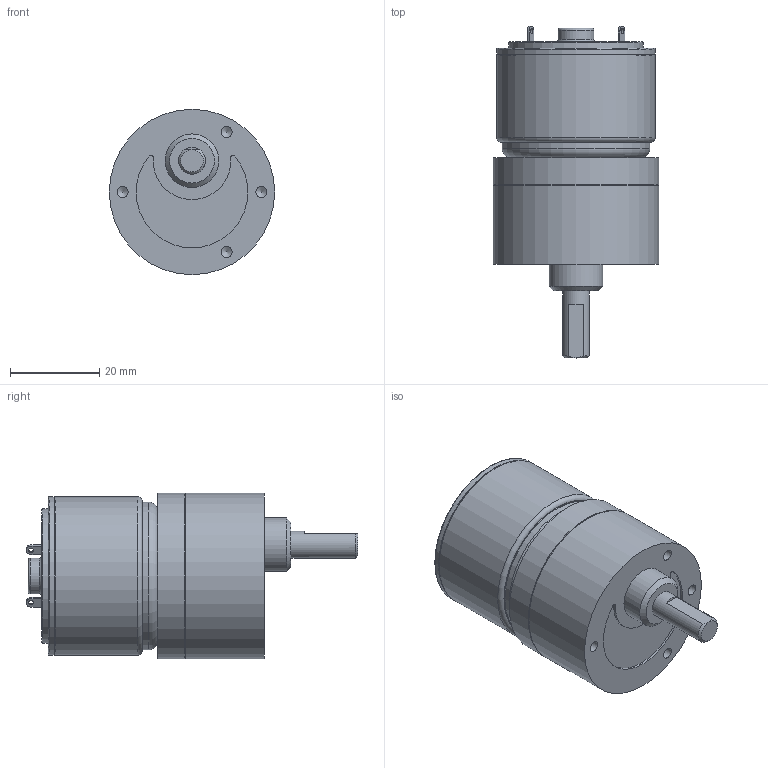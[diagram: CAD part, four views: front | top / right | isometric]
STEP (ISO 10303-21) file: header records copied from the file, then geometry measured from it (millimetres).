
FILE_DESCRIPTION((''),'2;1');
FILE_NAME('C:\Documents and Settings\SSEGAWA\デスクトップ\TP-3526E-HM-2.STP','2013-07-09T15:09:17',('SSEGAWA'),(''),'Autodesk Inventor 2010','Autodesk Inventor 2010','');
FILE_SCHEMA(('CONFIG_CONTROL_DESIGN'));
Length unit declared in the file: millimetre
Products named in the file (3): tp_3526e_hm_2; hm_2; tp_3526e
Assembly tree (2 placements, depth 2):
  tp_3526e_hm_2
    hm_2
    tp_3526e
Bounding box: 37 x 74.3 x 37 mm (x, y, z)
Volume: 51385.2 mm3; surface area: 10569.9 mm2
Topology: 2 solids, 2 shells, 76 faces, 162 edges, 106 vertices
Faces by surface type: plane 28, cylinder 22, bspline 18, torus 5, cone 3
Full cylindrical faces by diameter (mm): 1.1 x1, 2 x1, 2.4 x1, 5 x1, 6 x1, 8 x1, 10 x1, 12 x1, 30 x1, 33 x1, 35 x1, 35.4 x2, 36.6 x1, 37 x2
Entity records: 2088 total; most frequent: CARTESIAN_POINT 659, DIRECTION 297, ORIENTED_EDGE 202, EDGE_LOOP 137, AXIS2_PLACEMENT_3D 135, EDGE_CURVE 101, VERTEX_POINT 86, FACE_OUTER_BOUND 76
